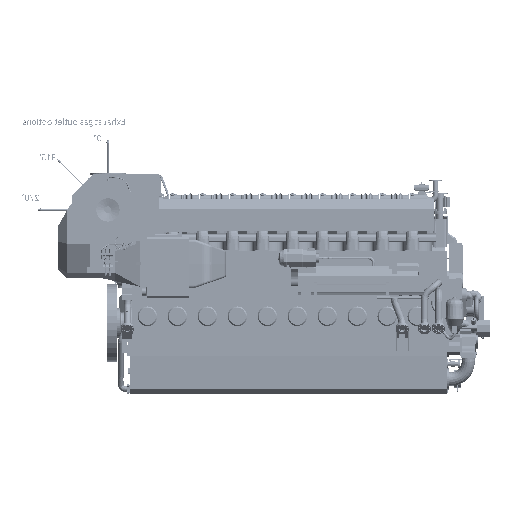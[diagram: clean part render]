
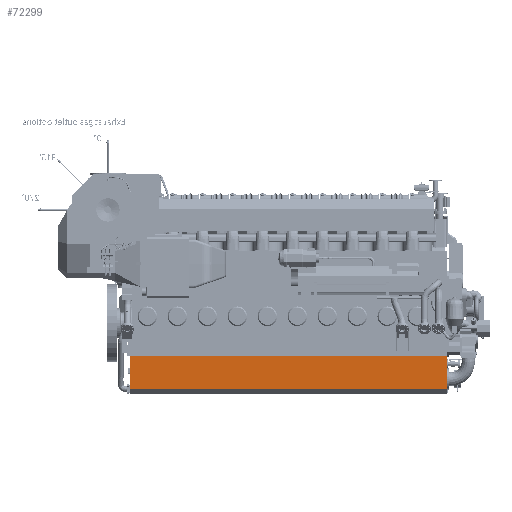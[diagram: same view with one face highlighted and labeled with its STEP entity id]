
A CAD part, front view. The second image highlights one B-rep face of the part: STEP entity #72299.
In plain terms, the highlighted planar face has unit normal (0, -0.999, -0.052).
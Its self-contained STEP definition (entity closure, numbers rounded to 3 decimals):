
#10422=LINE('',#319798,#30158);
#10436=LINE('',#319835,#30172);
#10446=LINE('',#319858,#30182);
#10447=LINE('',#319860,#30183);
#30158=VECTOR('',#253310,1.);
#30172=VECTOR('',#253334,1.);
#30182=VECTOR('',#253354,1.);
#30183=VECTOR('',#253357,1.);
#53359=PLANE('',#233305);
#60678=FACE_OUTER_BOUND('',#93749,.T.);
#72299=ADVANCED_FACE('',(#60678),#53359,.F.);
#93749=EDGE_LOOP('',(#110220,#110221,#110222,#110223));
#110220=ORIENTED_EDGE('',*,*,#194980,.T.);
#110221=ORIENTED_EDGE('',*,*,#194993,.F.);
#110222=ORIENTED_EDGE('',*,*,#194962,.F.);
#110223=ORIENTED_EDGE('',*,*,#194992,.T.);
#173724=VERTEX_POINT('',#319797);
#173725=VERTEX_POINT('',#319799);
#173742=VERTEX_POINT('',#319834);
#173743=VERTEX_POINT('',#319836);
#194962=EDGE_CURVE('',#173724,#173725,#10422,.T.);
#194980=EDGE_CURVE('',#173743,#173742,#10436,.T.);
#194992=EDGE_CURVE('',#173724,#173743,#10446,.T.);
#194993=EDGE_CURVE('',#173725,#173742,#10447,.T.);
#233305=AXIS2_PLACEMENT_3D('',#319861,#253358,#253359);
#253310=DIRECTION('',(0.,-0.052,0.999));
#253334=DIRECTION('',(0.,-0.052,0.999));
#253354=DIRECTION('',(1.,0.,0.));
#253357=DIRECTION('',(1.,0.,0.));
#253358=DIRECTION('',(0.,0.999,0.052));
#253359=DIRECTION('',(0.,-0.052,0.999));
#319797=CARTESIAN_POINT('',(-5180.,-412.339,-1079.568));
#319798=CARTESIAN_POINT('',(-5180.,-412.339,-1079.568));
#319799=CARTESIAN_POINT('',(-5180.,-440.25,-545.));
#319834=CARTESIAN_POINT('',(0.,-440.25,-545.));
#319835=CARTESIAN_POINT('',(0.,-412.339,-1079.568));
#319836=CARTESIAN_POINT('',(0.,-412.339,-1079.568));
#319858=CARTESIAN_POINT('',(-5180.,-412.339,-1079.568));
#319860=CARTESIAN_POINT('',(-5180.,-440.25,-545.));
#319861=CARTESIAN_POINT('',(-5180.,-412.339,-1079.568));
